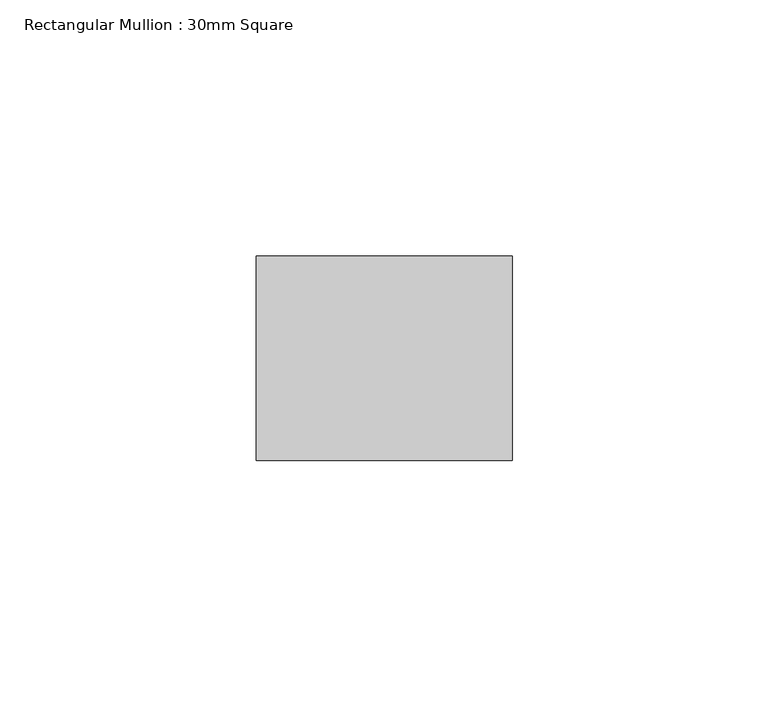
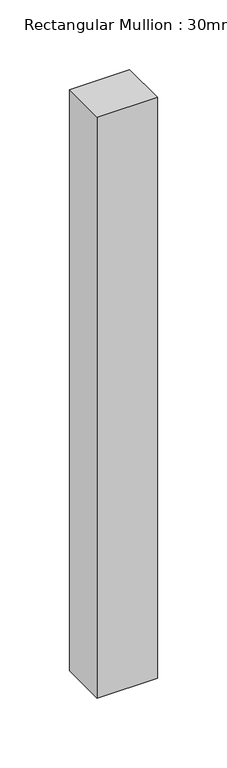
"""IFC4 building model written with IfcOpenShell, lengths in millimetres: member geometry, Rectangular Mullion : 30mm Square."""

from ifc_helpers import new_model, si_unit, frame, origin, place, context, project, spatial, polyline, outline, extrude, source, transform, mapped, element, save


def rectangular_mullion_30mm_square_73ec684f(model_context):
    return source(origin(), model_context, "Body", "SweptSolid", [
        extrude(outline(polyline([(25.0, 20.0), (25.0, -20.0), (-25.0, -20.0), (-25.0, 20.0), (25.0, 20.0)])), frame((0.0, 0.0, -510.0), z_axis=(0.0, 0.0, 1.0), x_axis=(1.0, 0.0, 0.0)), (0.0, 0.0, 1.0), 510.0),
    ])


if __name__ == "__main__":
    model = new_model("IFC4")
    model_context = context("Model", 3, world=origin())
    ifc_project = project(units=[si_unit("LENGTHUNIT", "METRE", prefix="MILLI")], contexts=[model_context])
    site = spatial("IfcSite", under=ifc_project)
    building = spatial("IfcBuilding", under=site)
    placement = place(None, origin())
    rectangular_mullion_30mm_square_shape = rectangular_mullion_30mm_square_73ec684f(model_context)
    element("IfcMember", 1, ObjectType="Rectangular Mullion : 30mm Square", at=placement, inside=building, context=model_context, shape_type="MappedRepresentation", body=[
        mapped(rectangular_mullion_30mm_square_shape, transform((0.0, 0.0, 0.0), x_axis=(1.0, 0.0, 0.0), y_axis=(0.0, 1.0, 0.0), z_axis=(0.0, 0.0, 1.0))),
    ])
    save(model, "model.ifc")
